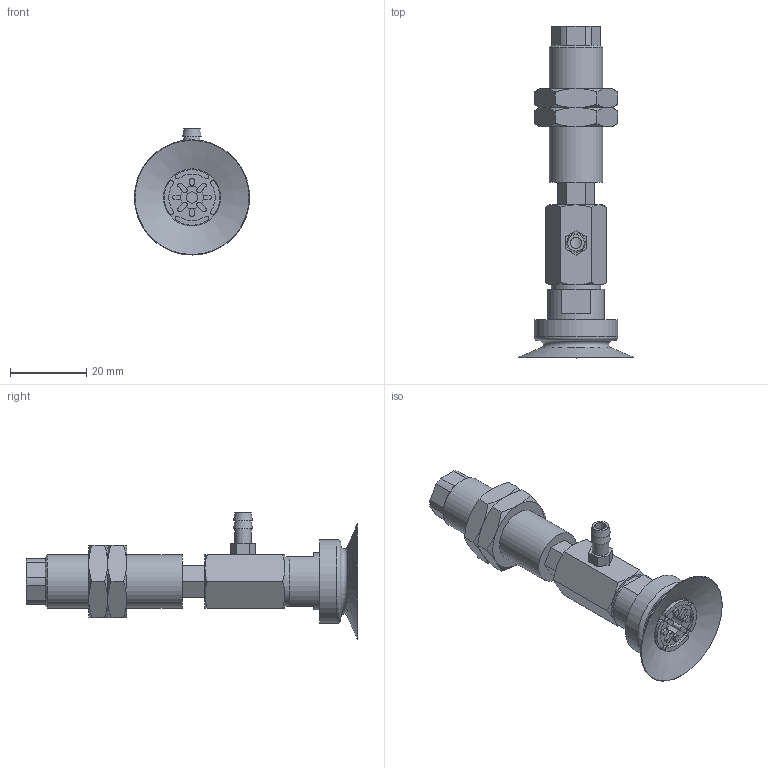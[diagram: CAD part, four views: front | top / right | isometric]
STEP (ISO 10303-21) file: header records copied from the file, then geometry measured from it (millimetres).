
FILE_DESCRIPTION(('STEP AP203'),'1');
FILE_NAME('-T.stp','2025-03-13T08:07:40',(' '),(' '),'Spatial InterOp 3D',' ',' ');
FILE_SCHEMA(('CONFIG_CONTROL_DESIGN'));
Length unit declared in the file: millimetre
Products named in the file (7): BNABPAYH-30-6-※-T; CONNECTOR-30-6-PA; Nut-25-S; NAPAYH-30-6--F; NAPAYH-30-6--M; BPAG-30-※; T
Assembly tree (7 placements, depth 2):
  BNABPAYH-30-6-※-T
    CONNECTOR-30-6-PA
    Nut-25-S  x2
    NAPAYH-30-6--F
    NAPAYH-30-6--M
    BPAG-30-※
    T
Bounding box: 30.3 x 87.2 x 33.15 mm (x, y, z)
Volume: 15569.2 mm3; surface area: 11879.8 mm2
Topology: 7 solids, 7 shells, 226 faces, 519 edges, 328 vertices
Faces by surface type: plane 111, cylinder 59, cone 54, torus 2
Full cylindrical faces by diameter (mm): 3 x3, 4.134 x2, 4.3 x1, 4.6 x1, 4.917 x1, 5 x2, 6 x1, 12.917 x2, 13 x1, 14 x1, 15 x1, 22 x1
Entity records: 6250 total; most frequent: CARTESIAN_POINT 1338, DIRECTION 978, ORIENTED_EDGE 872, EDGE_CURVE 436, AXIS2_PLACEMENT_3D 382, VERTEX_POINT 298, EDGE_LOOP 268, FACE_OUTER_BOUND 221
